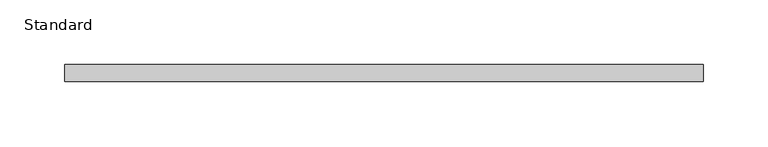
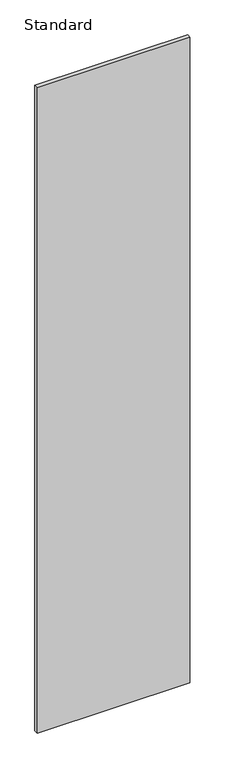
"""IFC4 building model written with IfcOpenShell, lengths in millimetres: furniture geometry, X_Partition-Compact Laminate-Duracube-Rectangular : Standard."""

from ifc_helpers import new_model, si_unit, frame, origin, place, context, project, spatial, polyline, outline, extrude, source, transform, mapped, element, save


def standard_a796d752(model_context):
    return source(origin(), model_context, "Body", "SweptSolid", [
        extrude(outline(polyline([(290.5753264, 0.0), (290.5753264, -13.0), (-201.1746736, -13.0), (-201.1746736, 0.0), (290.5753264, 0.0)])), frame((0.0, 0.0, 200.0), z_axis=(0.0, 0.0, 1.0), x_axis=(1.0, 0.0, 0.0)), (0.0, 0.0, 1.0), 2198.0),
    ])


if __name__ == "__main__":
    model = new_model("IFC4")
    model_context = context("Model", 3, world=origin())
    ifc_project = project(units=[si_unit("LENGTHUNIT", "METRE", prefix="MILLI")], contexts=[model_context])
    site = spatial("IfcSite", under=ifc_project)
    building = spatial("IfcBuilding", under=site)
    placement = place(None, origin())
    standard_shape = standard_a796d752(model_context)
    element("IfcFurniture", 1, ObjectType="X_Partition-Compact Laminate-Duracube-Rectangular : Standard", at=placement, inside=building, context=model_context, shape_type="MappedRepresentation", body=[
        mapped(standard_shape, transform((0.0, 0.0, 0.0), x_axis=(1.0, 0.0, 0.0), y_axis=(0.0, 1.0, 0.0), z_axis=(0.0, 0.0, 1.0))),
    ])
    save(model, "model.ifc")
